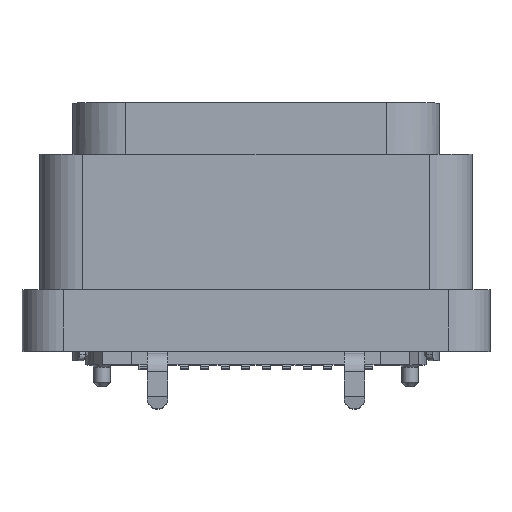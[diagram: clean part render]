
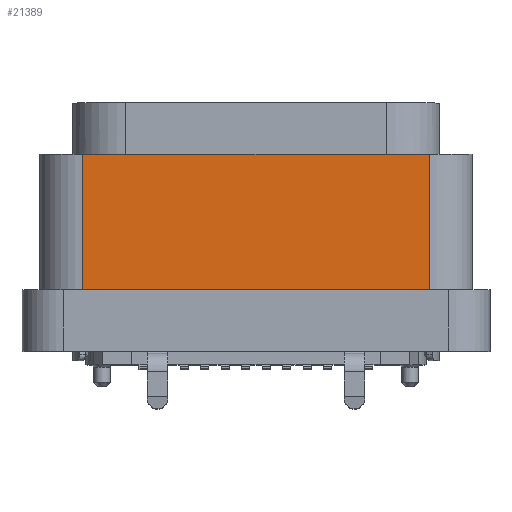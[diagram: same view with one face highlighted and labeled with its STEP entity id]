
A CAD part, top view. The second image highlights one B-rep face of the part: STEP entity #21389.
In plain terms, the highlighted planar face has unit normal (0, 0, 1).
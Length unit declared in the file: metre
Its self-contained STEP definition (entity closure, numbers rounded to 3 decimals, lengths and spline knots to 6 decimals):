
#6457=DIRECTION('',(0.,1.,0.));
#6458=VECTOR('',#6457,0.0033);
#6459=CARTESIAN_POINT('',(-0.004225,0.0015,0.002525));
#6460=LINE('',#6459,#6458);
#6465=DIRECTION('',(1.,0.,0.));
#6466=VECTOR('',#6465,0.00845);
#6467=CARTESIAN_POINT('',(-0.004225,0.0015,0.002525));
#6468=LINE('',#6467,#6466);
#6473=DIRECTION('',(0.,-1.,0.));
#6474=VECTOR('',#6473,0.0033);
#6475=CARTESIAN_POINT('',(0.004225,0.0048,0.002525));
#6476=LINE('',#6475,#6474);
#6536=DIRECTION('',(1.,0.,0.));
#6537=VECTOR('',#6536,0.00845);
#6538=CARTESIAN_POINT('',(-0.004225,0.0048,0.002525));
#6539=LINE('',#6538,#6537);
#9734=CARTESIAN_POINT('',(-0.004225,0.0015,0.002525));
#9735=VERTEX_POINT('',#9734);
#9736=CARTESIAN_POINT('',(0.004225,0.0015,0.002525));
#9737=VERTEX_POINT('',#9736);
#9754=CARTESIAN_POINT('',(0.004225,0.0048,0.002525));
#9755=VERTEX_POINT('',#9754);
#9756=CARTESIAN_POINT('',(-0.004225,0.0048,0.002525));
#9757=VERTEX_POINT('',#9756);
#21376=CARTESIAN_POINT('',(0.,0.00315,0.002525));
#21377=DIRECTION('',(0.,0.,1.));
#21378=DIRECTION('',(1.,0.,0.));
#21379=AXIS2_PLACEMENT_3D('',#21376,#21377,#21378);
#21380=PLANE('',#21379);
#21382=ORIENTED_EDGE('',*,*,#21381,.T.);
#21383=ORIENTED_EDGE('',*,*,#21308,.F.);
#21384=ORIENTED_EDGE('',*,*,#21367,.T.);
#21386=ORIENTED_EDGE('',*,*,#21385,.T.);
#21387=EDGE_LOOP('',(#21382,#21383,#21384,#21386));
#21388=FACE_OUTER_BOUND('',#21387,.F.);
#21389=ADVANCED_FACE('',(#21388),#21380,.T.);
#21308=EDGE_CURVE('',#9735,#9737,#6468,.T.);
#21367=EDGE_CURVE('',#9735,#9757,#6460,.T.);
#21381=EDGE_CURVE('',#9755,#9737,#6476,.T.);
#21385=EDGE_CURVE('',#9757,#9755,#6539,.T.);
